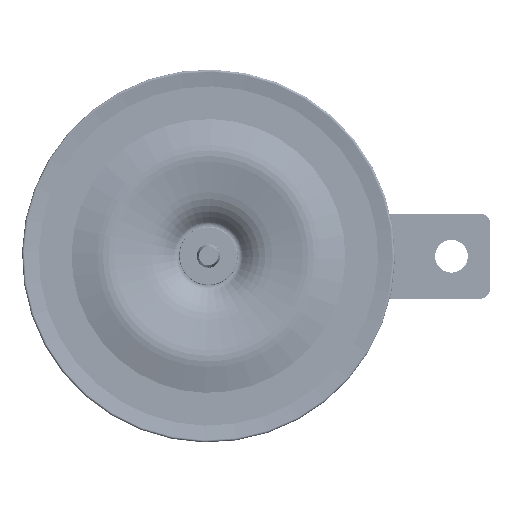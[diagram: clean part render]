
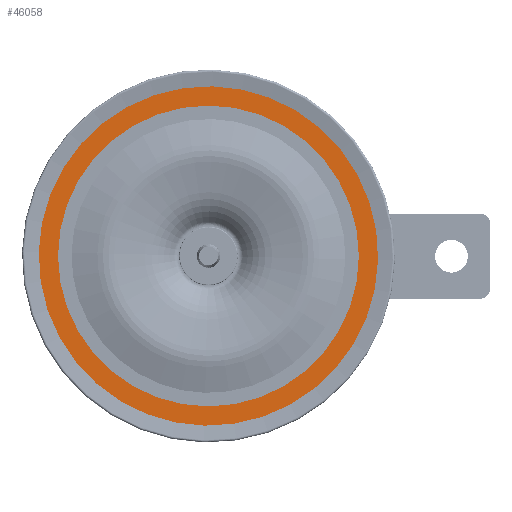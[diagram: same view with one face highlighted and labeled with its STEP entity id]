
A CAD part, top view. The second image highlights one B-rep face of the part: STEP entity #46058.
In plain terms, the highlighted planar face has unit normal (0, 0, 1).
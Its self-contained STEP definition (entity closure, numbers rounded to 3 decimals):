
#45938=AXIS2_PLACEMENT_3D('Circle Axis2P3D',#45936,#45937,$) ;
#45955=AXIS2_PLACEMENT_3D('Circle Axis2P3D',#45953,#45954,$) ;
#45972=AXIS2_PLACEMENT_3D('Circle Axis2P3D',#45970,#45971,$) ;
#46007=AXIS2_PLACEMENT_3D('Circle Axis2P3D',#46005,#46006,$) ;
#46048=AXIS2_PLACEMENT_3D('Plane Axis2P3D',#46045,#46046,#46047) ;
#45919=CARTESIAN_POINT('Vertex',(0.,47.,33.3)) ;
#45933=CARTESIAN_POINT('Vertex',(0.,-47.,33.3)) ;
#45936=CARTESIAN_POINT('Axis2P3D Location',(0.,0.,33.3)) ;
#45953=CARTESIAN_POINT('Axis2P3D Location',(0.,0.,33.3)) ;
#45970=CARTESIAN_POINT('Axis2P3D Location',(0.,0.,33.3)) ;
#45974=CARTESIAN_POINT('Vertex',(0.,-39.,33.3)) ;
#45976=CARTESIAN_POINT('Vertex',(0.,39.,33.3)) ;
#46005=CARTESIAN_POINT('Axis2P3D Location',(0.,0.,33.3)) ;
#46045=CARTESIAN_POINT('Axis2P3D Location',(0.,0.,33.3)) ;
#45937=DIRECTION('Axis2P3D Direction',(0.,-0.,1.)) ;
#45954=DIRECTION('Axis2P3D Direction',(0.,-0.,1.)) ;
#45971=DIRECTION('Axis2P3D Direction',(0.,-0.,1.)) ;
#46006=DIRECTION('Axis2P3D Direction',(0.,-0.,1.)) ;
#46046=DIRECTION('Axis2P3D Direction',(0.,-0.,1.)) ;
#46047=DIRECTION('Axis2P3D XDirection',(0.,1.,0.)) ;
#46051=ORIENTED_EDGE('',*,*,#45940,.T.) ;
#46052=ORIENTED_EDGE('',*,*,#45957,.T.) ;
#46055=ORIENTED_EDGE('',*,*,#45978,.F.) ;
#46056=ORIENTED_EDGE('',*,*,#46009,.F.) ;
#46057=FACE_BOUND('',#46054,.T.) ;
#46058=ADVANCED_FACE('002.952-81_HORN_12V_400HZ',(#46053,#46057),#46049,.T.) ;
#45939=CIRCLE('generated circle',#45938,47.) ;
#45956=CIRCLE('generated circle',#45955,47.) ;
#45973=CIRCLE('generated circle',#45972,39.) ;
#46008=CIRCLE('generated circle',#46007,39.) ;
#45940=EDGE_CURVE('',#45920,#45934,#45939,.T.) ;
#45957=EDGE_CURVE('',#45934,#45920,#45956,.T.) ;
#45978=EDGE_CURVE('',#45975,#45977,#45973,.T.) ;
#46009=EDGE_CURVE('',#45977,#45975,#46008,.T.) ;
#46050=EDGE_LOOP('',(#46051,#46052)) ;
#46054=EDGE_LOOP('',(#46055,#46056)) ;
#46053=FACE_OUTER_BOUND('',#46050,.T.) ;
#46049=PLANE('',#46048) ;
#45920=VERTEX_POINT('',#45919) ;
#45934=VERTEX_POINT('',#45933) ;
#45975=VERTEX_POINT('',#45974) ;
#45977=VERTEX_POINT('',#45976) ;
